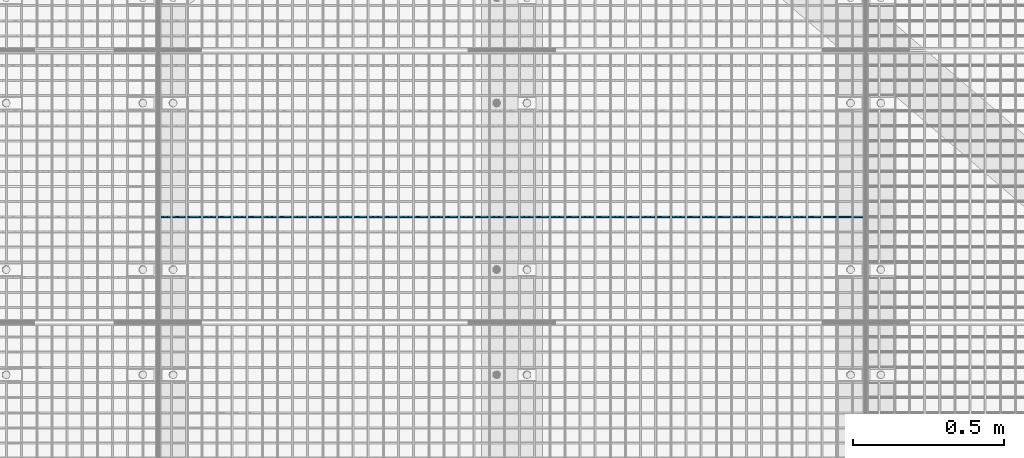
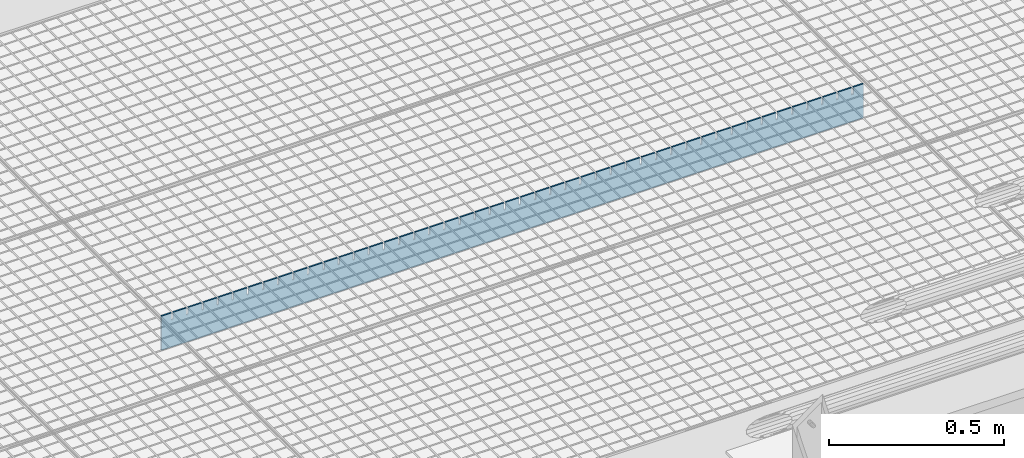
# One storey, part 186 of 1530: 1 beam.
"""IFC2X3 building model written with IfcOpenShell, lengths in millimetres."""

from ifc_helpers import new_model, si_unit, frame, origin_with_axes, place, context, subcontext, project, spatial, faceted_brep, material, type_object, element, save


model = new_model("IFC2X3")

# Units and contexts
model_context = context("Model", 3, precision=1e-05, world=origin_with_axes())
body_context = subcontext(model_context, "Body", "Model", "MODEL_VIEW")
ifc_project = project(units=[si_unit("LENGTHUNIT", "METRE", prefix="MILLI"), si_unit("AREAUNIT", "SQUARE_METRE"), si_unit("VOLUMEUNIT", "CUBIC_METRE"), si_unit("MASSUNIT", "GRAM", prefix="KILO"), si_unit("TIMEUNIT", "SECOND"), si_unit("PLANEANGLEUNIT", "RADIAN"), si_unit("SOLIDANGLEUNIT", "STERADIAN"), si_unit("THERMODYNAMICTEMPERATUREUNIT", "DEGREE_CELSIUS"), si_unit("LUMINOUSINTENSITYUNIT", "LUMEN")], contexts=[model_context])

# Site, building, storey
site_placement = place(None, origin_with_axes())
site = spatial("IfcSite", under=ifc_project, at=site_placement, Name="Brattvåg", CompositionType="ELEMENT")
building_placement = place(site_placement, origin_with_axes())
building = spatial("IfcBuilding", under=site, at=building_placement, Name="Undefined", CompositionType="ELEMENT")
storey_placement = place(building_placement, origin_with_axes())
storey = spatial("IfcBuildingStorey", under=building, at=storey_placement, Name="Undefined", CompositionType="ELEMENT", Elevation=0.0)

# Beam
ifc_material = material(Name="STEEL/S355J2")
beam_type = type_object("IfcBeamType", Name="120*5", PredefinedType="NOTDEFINED")
beam_placement = place(storey_placement, frame((5234.01317977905, 1399.99601745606, -59.9998626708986), z_axis=(0.0, 0.0, 1.0), x_axis=(-1.0, 1.99999855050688e-09, 0.0)))
element("IfcBeam", 1, at=beam_placement, inside=storey, type_object=beam_type, material=ifc_material, Name="GRATING", context=body_context, shape_type="Brep", body=[
    faceted_brep([(83.5790367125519, -2.50000000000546, 60.0000722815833), (83.5790367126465, -2.50000000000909, 35.0001373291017), (83.5790367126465, 2.50022888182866, 35.0001373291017), (83.5790367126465, 2.5, 60.0), (88.5790367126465, -2.50000000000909, 35.0001373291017), (88.5790367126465, 2.50022888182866, 35.0001373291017), (88.5790367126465, -2.50000000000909, 60.0001373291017), (88.5790367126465, 2.5, 60.0), (38.6284370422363, -2.50000000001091, 60.0001373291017), (38.6284370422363, 2.5, 60.0), (38.6284370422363, 2.49999999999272, 35.0001373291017), (38.6284370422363, -2.50000000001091, 35.0001373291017), (33.6284370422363, 2.49999999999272, 35.0001373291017), (33.6284370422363, -2.50000000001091, 35.0001373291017), (33.6284370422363, -2.5, 60.0), (33.6284370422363, 2.5, 60.0), (0.0, 2.5, 60.0), (0.0, -2.5, 60.0), (0.0, -2.5, -60.0), (0.0, 2.5, -60.0), (2319.99865722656, 2.5, -60.0), (2319.99865722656, -2.5, -60.0), (2319.99865722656, -2.5, 60.0), (2319.99865722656, 2.5, 60.0), (2286.37871932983, 2.5, 60.0), (2286.37871932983, -2.50000000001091, 60.0001373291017), (2286.37871932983, 2.49999999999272, 35.0001373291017), (2286.37871932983, -2.50000000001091, 35.0001373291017), (2281.37871932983, 2.49999999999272, 35.0001373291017), (2281.37871932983, -2.50000000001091, 35.0001373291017), (2281.37871932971, -2.50000000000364, 60.0000634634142), (2281.37871932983, 2.5, 60.0), (2236.42859649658, 2.5, 60.0), (2236.42859649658, -2.50000000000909, 60.0001373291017), (2236.42859649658, 2.50022888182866, 35.0001373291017), (2236.42859649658, -2.50000000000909, 35.0001373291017), (2231.42859649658, 2.50022888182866, 35.0001373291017), (2231.42859649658, -2.50000000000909, 35.0001373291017), (2231.42859649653, -2.50000000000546, 60.0000910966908), (2231.42859649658, 2.5, 60.0), (2186.47847366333, 2.5, 60.0), (2186.47847366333, -2.50000000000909, 60.0001373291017), (2186.47847366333, 2.50022888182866, 35.0001373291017), (2186.47847366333, -2.50000000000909, 35.0001373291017), (2181.47847366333, 2.50022888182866, 35.0001373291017), (2181.47847366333, -2.50000000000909, 35.0001373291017), (2181.47847366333, -2.5, 60.0), (2181.47847366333, 2.5, 60.0), (2136.52882766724, 2.5, 60.0), (2136.52882766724, -2.50000000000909, 60.0001373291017), (2136.52882766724, 2.50022888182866, 35.0001373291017), (2136.52882766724, -2.50000000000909, 35.0001373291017), (2131.52882766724, 2.50022888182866, 35.0001373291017), (2131.52882766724, -2.50000000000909, 35.0001373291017), (2131.52882766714, -2.50000000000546, 60.0000722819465), (2131.52882766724, 2.5, 60.0), (2086.57870483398, 2.5, 60.0), (2086.57870483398, -2.50000000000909, 60.0001373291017), (2086.57870483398, 2.50022888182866, 35.0001373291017), (2086.57870483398, -2.50000000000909, 35.0001373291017), (2081.57870483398, 2.50022888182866, 35.0001373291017), (2081.57870483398, -2.50000000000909, 35.0001373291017), (2081.57870483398, -2.5, 60.0), (2081.57870483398, 2.5, 60.0), (2036.62858200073, 2.5, 60.0), (2036.62858200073, -2.50000000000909, 60.0001373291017), (2036.62858200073, 2.50022888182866, 35.0001373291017), (2036.62858200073, -2.50000000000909, 35.0001373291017), (2031.62858200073, 2.50022888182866, 35.0001373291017), (2031.62858200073, -2.50000000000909, 35.0001373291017), (2031.62858200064, -2.50000000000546, 60.0000722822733), (2031.62858200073, 2.5, 60.0), (1986.67845916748, 2.5, 60.0), (1986.67845916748, -2.50000000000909, 60.0001373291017), (1986.67845916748, 2.50022888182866, 35.0001373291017), (1986.67845916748, -2.50000000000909, 35.0001373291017), (1981.67845916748, 2.50022888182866, 35.0001373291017), (1981.67845916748, -2.50000000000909, 35.0001373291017), (1981.67845916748, -2.5, 60.0), (1981.67845916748, 2.5, 60.0), (1936.72881317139, 2.5, 60.0), (1936.72881317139, -2.50000000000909, 60.0001373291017), (1936.72881317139, 2.50022888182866, 35.0001373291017), (1936.72881317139, -2.50000000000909, 35.0001373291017), (1931.72881317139, 2.50022888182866, 35.0001373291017), (1931.72881317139, -2.50000000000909, 35.0001373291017), (1931.72881317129, -2.50000000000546, 60.0000722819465), (1931.72881317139, 2.5, 60.0), (1886.77869033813, 2.5, 60.0), (1886.77869033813, -2.50000000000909, 60.0001373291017), (1886.77869033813, 2.50022888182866, 35.0001373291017), (1886.77869033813, -2.50000000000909, 35.0001373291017), (1881.77869033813, 2.50022888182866, 35.0001373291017), (1881.77869033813, -2.50000000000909, 35.0001373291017), (1881.77869033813, -2.5, 60.0), (1881.77869033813, 2.5, 60.0), (1836.82856750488, 2.5, 60.0), (1836.82856750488, -2.50000000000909, 60.0001373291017), (1836.82856750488, 2.50022888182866, 35.0001373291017), (1836.82856750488, -2.50000000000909, 35.0001373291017), (1831.82856750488, 2.50022888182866, 35.0001373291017), (1831.82856750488, -2.50000000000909, 35.0001373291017), (1831.82856750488, -2.5, 60.0), (1831.82856750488, 2.5, 60.0), (1786.87892150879, 2.5, 60.0), (1786.87892150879, -2.50000000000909, 60.0001373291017), (1786.87892150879, 2.50022888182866, 35.0001373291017), (1786.87892150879, -2.50000000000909, 35.0001373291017), (1781.87892150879, 2.50022888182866, 35.0001373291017), (1781.87892150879, -2.50000000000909, 35.0001373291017), (1781.87892150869, -2.50000000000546, 60.0000722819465), (1781.87892150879, 2.5, 60.0), (1736.92879867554, 2.5, 60.0), (1736.92879867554, -2.50000000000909, 60.0001373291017), (1736.92879867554, 2.50022888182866, 35.0001373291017), (1736.92879867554, -2.50000000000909, 35.0001373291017), (1731.92879867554, 2.50022888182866, 35.0001373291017), (1731.92879867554, -2.50000000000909, 35.0001373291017), (1731.92879867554, -2.5, 60.0), (1731.92879867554, 2.5, 60.0), (1686.97867584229, 2.5, 60.0), (1686.97867584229, -2.50000000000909, 60.0001373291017), (1686.97867584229, 2.50022888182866, 35.0001373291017), (1686.97867584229, -2.50000000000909, 35.0001373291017), (1681.97867584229, 2.50022888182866, 35.0001373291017), (1681.97867584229, -2.50000000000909, 35.0001373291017), (1681.97867584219, -2.50000000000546, 60.0000722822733), (1681.97867584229, 2.5, 60.0), (1637.02855300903, 2.5, 60.0), (1637.02855300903, -2.50000000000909, 60.0001373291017), (1637.02855300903, 2.50022888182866, 35.0001373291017), (1637.02855300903, -2.50000000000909, 35.0001373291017), (1632.02855300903, 2.50022888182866, 35.0001373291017), (1632.02855300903, -2.50000000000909, 35.0001373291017), (1632.02855300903, -2.5, 60.0), (1632.02855300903, 2.5, 60.0), (1587.07890701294, 2.5, 60.0), (1587.07890701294, -2.50000000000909, 60.0001373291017), (1587.07890701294, 2.50022888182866, 35.0001373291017), (1587.07890701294, -2.50000000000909, 35.0001373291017), (1582.07890701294, 2.50022888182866, 35.0001373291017), (1582.07890701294, -2.50000000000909, 35.0001373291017), (1582.07890701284, -2.50000000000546, 60.0000722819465), (1582.07890701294, 2.5, 60.0), (1537.12878417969, 2.5, 60.0), (1537.12878417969, -2.50000000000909, 60.0001373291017), (1537.12878417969, 2.50022888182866, 35.0001373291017), (1537.12878417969, -2.50000000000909, 35.0001373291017), (1532.12878417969, 2.50022888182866, 35.0001373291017), (1532.12878417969, -2.50000000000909, 35.0001373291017), (1532.12878417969, -2.5, 60.0), (1532.12878417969, 2.5, 60.0), (1487.17866134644, 2.5, 60.0), (1487.17866134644, -2.50000000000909, 60.0001373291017), (1487.17866134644, 2.50022888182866, 35.0001373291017), (1487.17866134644, -2.50000000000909, 35.0001373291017), (1482.17866134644, 2.50022888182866, 35.0001373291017), (1482.17866134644, -2.50000000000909, 35.0001373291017), (1482.17866134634, -2.50000000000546, 60.0000722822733), (1482.17866134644, 2.5, 60.0), (1437.22853851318, 2.5, 60.0), (1437.22853851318, -2.50000000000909, 60.0001373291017), (1437.22853851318, 2.50022888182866, 35.0001373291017), (1437.22853851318, -2.50000000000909, 35.0001373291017), (1432.22853851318, 2.50022888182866, 35.0001373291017), (1432.22853851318, -2.50000000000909, 35.0001373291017), (1432.22853851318, -2.5, 60.0), (1432.22853851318, 2.5, 60.0), (1387.27889251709, 2.5, 60.0), (1387.27889251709, -2.50000000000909, 60.0001373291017), (1387.27889251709, 2.50022888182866, 35.0001373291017), (1387.27889251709, -2.50000000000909, 35.0001373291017), (1382.27889251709, 2.50022888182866, 35.0001373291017), (1382.27889251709, -2.50000000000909, 35.0001373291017), (1382.278892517, -2.50000000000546, 60.0000722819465), (1382.27889251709, 2.5, 60.0), (1337.32876968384, 2.5, 60.0), (1337.32876968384, -2.50000000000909, 60.0001373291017), (1337.32876968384, 2.50022888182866, 35.0001373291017), (1337.32876968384, -2.50000000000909, 35.0001373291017), (1332.32876968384, 2.50022888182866, 35.0001373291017), (1332.32876968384, -2.50000000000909, 35.0001373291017), (1332.32876968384, -2.5, 60.0), (1332.32876968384, 2.5, 60.0), (1287.37864685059, 2.5, 60.0), (1287.37864685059, -2.50000000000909, 60.0001373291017), (1287.37864685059, 2.50022888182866, 35.0001373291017), (1287.37864685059, -2.50000000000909, 35.0001373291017), (1282.37864685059, 2.50022888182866, 35.0001373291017), (1282.37864685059, -2.50000000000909, 35.0001373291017), (1282.37864685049, -2.50000000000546, 60.0000722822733), (1282.37864685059, 2.5, 60.0), (1237.42852401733, 2.5, 60.0), (1237.42852401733, -2.50000000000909, 60.0001373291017), (1237.42852401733, 2.50022888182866, 35.0001373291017), (1237.42852401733, -2.50000000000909, 35.0001373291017), (1232.42852401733, 2.50022888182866, 35.0001373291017), (1232.42852401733, -2.50000000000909, 35.0001373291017), (1232.42852401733, -2.5, 60.0), (1232.42852401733, 2.5, 60.0), (1187.47887802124, 2.5, 60.0), (1187.47887802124, -2.50000000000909, 60.0001373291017), (1187.47887802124, 2.50022888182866, 35.0001373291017), (1187.47887802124, -2.50000000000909, 35.0001373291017), (1182.47887802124, 2.50022888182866, 35.0001373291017), (1182.47887802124, -2.50000000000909, 35.0001373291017), (1182.47887802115, -2.50000000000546, 60.0000722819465), (1182.47887802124, 2.5, 60.0), (1137.52875518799, 2.5, 60.0), (1137.52875518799, -2.50000000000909, 60.0001373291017), (1137.52875518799, 2.50022888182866, 35.0001373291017), (1137.52875518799, -2.50000000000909, 35.0001373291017), (1132.52875518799, 2.50022888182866, 35.0001373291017), (1132.52875518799, -2.50000000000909, 35.0001373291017), (1132.52875518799, -2.5, 60.0), (1132.52875518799, 2.5, 60.0), (1087.57863235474, 2.5, 60.0), (1087.57863235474, -2.50000000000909, 60.0001373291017), (1087.57863235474, 2.50022888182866, 35.0001373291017), (1087.57863235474, -2.50000000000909, 35.0001373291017), (1082.57863235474, 2.50022888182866, 35.0001373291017), (1082.57863235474, -2.50000000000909, 35.0001373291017), (1082.57863235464, -2.50000000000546, 60.0000722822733), (1082.57863235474, 2.5, 60.0), (1037.62850952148, 2.5, 60.0), (1037.62850952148, -2.50000000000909, 60.0001373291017), (1037.62850952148, 2.50022888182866, 35.0001373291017), (1037.62850952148, -2.50000000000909, 35.0001373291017), (1032.62850952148, 2.50022888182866, 35.0001373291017), (1032.62850952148, -2.50000000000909, 35.0001373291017), (1032.62850952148, -2.5, 60.0), (1032.62850952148, 2.5, 60.0), (987.678863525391, 2.5, 60.0), (987.678863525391, -2.50000000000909, 60.0001373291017), (987.678863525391, 2.50022888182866, 35.0001373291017), (987.678863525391, -2.50000000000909, 35.0001373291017), (982.678863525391, 2.50022888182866, 35.0001373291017), (982.678863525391, -2.50000000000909, 35.0001373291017), (982.678863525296, -2.50000000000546, 60.0000722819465), (982.678863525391, 2.5, 60.0), (937.728740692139, 2.5, 60.0), (937.728740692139, -2.50000000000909, 60.0001373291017), (937.728740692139, 2.50022888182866, 35.0001373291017), (937.728740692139, -2.50000000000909, 35.0001373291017), (932.728740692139, 2.50022888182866, 35.0001373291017), (932.728740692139, -2.50000000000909, 35.0001373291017), (932.728740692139, -2.5, 60.0), (932.728740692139, 2.5, 60.0), (887.778617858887, 2.5, 60.0), (887.778617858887, -2.50000000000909, 60.0001373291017), (887.778617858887, 2.50022888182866, 35.0001373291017), (887.778617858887, -2.50000000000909, 35.0001373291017), (882.778617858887, 2.50022888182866, 35.0001373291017), (882.778617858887, -2.50000000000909, 35.0001373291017), (882.778617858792, -2.50000000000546, 60.0000722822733), (882.778617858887, 2.5, 60.0), (837.828495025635, 2.5, 60.0), (837.828495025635, -2.50000000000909, 60.0001373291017), (837.828495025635, 2.50022888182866, 35.0001373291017), (837.828495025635, -2.50000000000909, 35.0001373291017), (832.828495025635, 2.50022888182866, 35.0001373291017), (832.828495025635, -2.50000000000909, 35.0001373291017), (832.828495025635, -2.5, 60.0), (832.828495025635, 2.5, 60.0), (787.878849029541, 2.5, 60.0), (787.878849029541, -2.50000000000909, 60.0001373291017), (787.878849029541, 2.50022888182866, 35.0001373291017), (787.878849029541, -2.50000000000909, 35.0001373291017), (782.878849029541, 2.50022888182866, 35.0001373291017), (782.878849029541, -2.50000000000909, 35.0001373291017), (782.878849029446, -2.50000000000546, 60.0000722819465), (782.878849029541, 2.5, 60.0), (737.928726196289, 2.5, 60.0), (737.928726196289, -2.50000000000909, 60.0001373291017), (737.928726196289, 2.50022888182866, 35.0001373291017), (737.928726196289, -2.50000000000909, 35.0001373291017), (732.928726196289, 2.50022888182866, 35.0001373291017), (732.928726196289, -2.50000000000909, 35.0001373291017), (732.928726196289, -2.5, 60.0), (732.928726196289, 2.5, 60.0), (687.978603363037, 2.5, 60.0), (687.978603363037, -2.50000000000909, 60.0001373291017), (687.978603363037, 2.50022888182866, 35.0001373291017), (687.978603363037, -2.50000000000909, 35.0001373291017), (682.978603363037, 2.50022888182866, 35.0001373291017), (682.978603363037, -2.50000000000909, 35.0001373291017), (682.978603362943, -2.50000000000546, 60.0000722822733), (682.978603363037, 2.5, 60.0), (638.028480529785, 2.5, 60.0), (638.028480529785, -2.50000000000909, 60.0001373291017), (638.028480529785, 2.50022888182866, 35.0001373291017), (638.028480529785, -2.50000000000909, 35.0001373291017), (633.028480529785, 2.50022888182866, 35.0001373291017), (633.028480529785, -2.50000000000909, 35.0001373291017), (633.028480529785, -2.5, 60.0), (633.028480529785, 2.5, 60.0), (588.078834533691, 2.5, 60.0), (588.078834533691, -2.50000000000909, 60.0001373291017), (588.078834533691, 2.50022888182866, 35.0001373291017), (588.078834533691, -2.50000000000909, 35.0001373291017), (583.078834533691, 2.50022888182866, 35.0001373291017), (583.078834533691, -2.50000000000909, 35.0001373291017), (583.078834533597, -2.50000000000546, 60.0000722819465), (583.078834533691, 2.5, 60.0), (538.128711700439, 2.5, 60.0), (538.128711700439, -2.50000000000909, 60.0001373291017), (538.128711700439, 2.50022888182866, 35.0001373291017), (538.128711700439, -2.50000000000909, 35.0001373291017), (533.128711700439, 2.50022888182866, 35.0001373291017), (533.128711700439, -2.50000000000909, 35.0001373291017), (533.128711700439, -2.5, 60.0), (533.128711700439, 2.5, 60.0), (488.178588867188, 2.5, 60.0), (488.178588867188, -2.50000000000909, 60.0001373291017), (488.178588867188, 2.50022888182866, 35.0001373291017), (488.178588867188, -2.50000000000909, 35.0001373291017), (483.178588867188, 2.50022888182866, 35.0001373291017), (483.178588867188, -2.50000000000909, 35.0001373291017), (483.178588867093, -2.50000000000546, 60.0000722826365), (483.178588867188, 2.5, 60.0), (438.228942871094, 2.5, 60.0), (438.228942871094, -2.50000000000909, 60.0001373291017), (438.228942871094, 2.50022888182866, 35.0001373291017), (438.228942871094, -2.50000000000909, 35.0001373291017), (433.228942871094, 2.50022888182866, 35.0001373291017), (433.228942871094, -2.50000000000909, 35.0001373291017), (433.228942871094, -2.5, 60.0), (433.228942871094, 2.5, 60.0), (388.278820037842, 2.5, 60.0), (388.278820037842, -2.50000000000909, 60.0001373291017), (388.278820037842, 2.50022888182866, 35.0001373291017), (388.278820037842, -2.50000000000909, 35.0001373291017), (383.278820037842, 2.50022888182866, 35.0001373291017), (383.278820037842, -2.50000000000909, 35.0001373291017), (383.278820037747, -2.50000000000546, 60.0000722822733), (383.278820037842, 2.5, 60.0), (338.32869720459, 2.5, 60.0), (338.32869720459, -2.50000000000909, 60.0001373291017), (338.32869720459, 2.50022888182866, 35.0001373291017), (338.32869720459, -2.50000000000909, 35.0001373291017), (333.32869720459, 2.50022888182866, 35.0001373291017), (333.32869720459, -2.50000000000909, 35.0001373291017), (333.32869720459, -2.5, 60.0), (333.32869720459, 2.5, 60.0), (288.378574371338, 2.5, 60.0), (288.378574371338, -2.50000000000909, 60.0001373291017), (288.378574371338, 2.50022888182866, 35.0001373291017), (288.378574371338, -2.50000000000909, 35.0001373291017), (283.378574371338, 2.50022888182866, 35.0001373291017), (283.378574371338, -2.50000000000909, 35.0001373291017), (283.378574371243, -2.50000000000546, 60.0000722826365), (283.378574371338, 2.5, 60.0), (238.428928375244, 2.5, 60.0), (238.428928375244, -2.50000000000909, 60.0001373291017), (238.428928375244, 2.50022888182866, 35.0001373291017), (238.428928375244, -2.50000000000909, 35.0001373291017), (233.428928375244, 2.50022888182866, 35.0001373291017), (233.428928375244, -2.50000000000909, 35.0001373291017), (233.428928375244, -2.5, 60.0), (233.428928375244, 2.5, 60.0), (188.478328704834, 2.5, 60.0), (188.478328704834, -2.50000000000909, 60.0001373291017), (188.478328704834, 2.50022888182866, 35.0001373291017), (188.478328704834, -2.50000000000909, 35.0001373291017), (183.478328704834, 2.50022888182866, 35.0001373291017), (183.478328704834, -2.50000000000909, 35.0001373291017), (183.478328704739, -2.50000000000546, 60.0000722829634), (183.478328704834, 2.5, 60.0), (138.52868270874, 2.5, 60.0), (138.52868270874, -2.50000000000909, 60.0001373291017), (138.52868270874, 2.50022888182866, 35.0001373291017), (138.52868270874, -2.50000000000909, 35.0001373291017), (133.52868270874, 2.50022888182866, 35.0001373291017), (133.52868270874, -2.50000000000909, 35.0001373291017), (133.52868270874, -2.5, 60.0), (133.52868270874, 2.5, 60.0)], [[[0, 1, 2, 3]], [[4, 5, 2, 1]], [[6, 7, 5, 4]], [[8, 9, 10, 11]], [[11, 10, 12, 13]], [[14, 13, 12, 15]], [[16, 17, 14, 15]], [[18, 17, 16, 19]], [[18, 19, 20, 21]], [[22, 21, 20, 23]], [[22, 23, 24, 25]], [[25, 24, 26, 27]], [[27, 26, 28, 29]], [[30, 29, 28, 31]], [[32, 33, 30, 31]], [[33, 32, 34, 35]], [[35, 34, 36, 37]], [[38, 37, 36, 39]], [[40, 41, 38, 39]], [[41, 40, 42, 43]], [[43, 42, 44, 45]], [[46, 45, 44, 47]], [[46, 47, 48, 49]], [[49, 48, 50, 51]], [[51, 50, 52, 53]], [[54, 53, 52, 55]], [[56, 57, 54, 55]], [[57, 56, 58, 59]], [[59, 58, 60, 61]], [[62, 61, 60, 63]], [[62, 63, 64, 65]], [[65, 64, 66, 67]], [[67, 66, 68, 69]], [[70, 69, 68, 71]], [[72, 73, 70, 71]], [[73, 72, 74, 75]], [[75, 74, 76, 77]], [[78, 77, 76, 79]], [[78, 79, 80, 81]], [[81, 80, 82, 83]], [[83, 82, 84, 85]], [[86, 85, 84, 87]], [[88, 89, 86, 87]], [[89, 88, 90, 91]], [[91, 90, 92, 93]], [[94, 93, 92, 95]], [[94, 95, 96, 97]], [[97, 96, 98, 99]], [[99, 98, 100, 101]], [[102, 101, 100, 103]], [[102, 103, 104, 105]], [[105, 104, 106, 107]], [[107, 106, 108, 109]], [[110, 109, 108, 111]], [[112, 113, 110, 111]], [[113, 112, 114, 115]], [[115, 114, 116, 117]], [[118, 117, 116, 119]], [[118, 119, 120, 121]], [[121, 120, 122, 123]], [[123, 122, 124, 125]], [[126, 125, 124, 127]], [[128, 129, 126, 127]], [[129, 128, 130, 131]], [[131, 130, 132, 133]], [[134, 133, 132, 135]], [[134, 135, 136, 137]], [[137, 136, 138, 139]], [[139, 138, 140, 141]], [[142, 141, 140, 143]], [[144, 145, 142, 143]], [[145, 144, 146, 147]], [[147, 146, 148, 149]], [[150, 149, 148, 151]], [[150, 151, 152, 153]], [[153, 152, 154, 155]], [[155, 154, 156, 157]], [[158, 157, 156, 159]], [[160, 161, 158, 159]], [[161, 160, 162, 163]], [[163, 162, 164, 165]], [[166, 165, 164, 167]], [[166, 167, 168, 169]], [[169, 168, 170, 171]], [[171, 170, 172, 173]], [[174, 173, 172, 175]], [[176, 177, 174, 175]], [[177, 176, 178, 179]], [[179, 178, 180, 181]], [[182, 181, 180, 183]], [[182, 183, 184, 185]], [[185, 184, 186, 187]], [[187, 186, 188, 189]], [[190, 189, 188, 191]], [[192, 193, 190, 191]], [[193, 192, 194, 195]], [[195, 194, 196, 197]], [[198, 197, 196, 199]], [[198, 199, 200, 201]], [[201, 200, 202, 203]], [[203, 202, 204, 205]], [[206, 205, 204, 207]], [[208, 209, 206, 207]], [[209, 208, 210, 211]], [[211, 210, 212, 213]], [[214, 213, 212, 215]], [[214, 215, 216, 217]], [[217, 216, 218, 219]], [[219, 218, 220, 221]], [[222, 221, 220, 223]], [[224, 225, 222, 223]], [[225, 224, 226, 227]], [[227, 226, 228, 229]], [[230, 229, 228, 231]], [[230, 231, 232, 233]], [[233, 232, 234, 235]], [[235, 234, 236, 237]], [[238, 237, 236, 239]], [[240, 241, 238, 239]], [[241, 240, 242, 243]], [[243, 242, 244, 245]], [[246, 245, 244, 247]], [[246, 247, 248, 249]], [[249, 248, 250, 251]], [[251, 250, 252, 253]], [[254, 253, 252, 255]], [[256, 257, 254, 255]], [[257, 256, 258, 259]], [[259, 258, 260, 261]], [[262, 261, 260, 263]], [[262, 263, 264, 265]], [[265, 264, 266, 267]], [[267, 266, 268, 269]], [[270, 269, 268, 271]], [[272, 273, 270, 271]], [[273, 272, 274, 275]], [[275, 274, 276, 277]], [[278, 277, 276, 279]], [[278, 279, 280, 281]], [[281, 280, 282, 283]], [[283, 282, 284, 285]], [[286, 285, 284, 287]], [[288, 289, 286, 287]], [[289, 288, 290, 291]], [[291, 290, 292, 293]], [[294, 293, 292, 295]], [[294, 295, 296, 297]], [[297, 296, 298, 299]], [[299, 298, 300, 301]], [[302, 301, 300, 303]], [[304, 305, 302, 303]], [[305, 304, 306, 307]], [[307, 306, 308, 309]], [[310, 309, 308, 311]], [[310, 311, 312, 313]], [[313, 312, 314, 315]], [[315, 314, 316, 317]], [[318, 317, 316, 319]], [[320, 321, 318, 319]], [[321, 320, 322, 323]], [[323, 322, 324, 325]], [[326, 325, 324, 327]], [[326, 327, 328, 329]], [[329, 328, 330, 331]], [[331, 330, 332, 333]], [[334, 333, 332, 335]], [[336, 337, 334, 335]], [[337, 336, 338, 339]], [[339, 338, 340, 341]], [[342, 341, 340, 343]], [[342, 343, 344, 345]], [[345, 344, 346, 347]], [[347, 346, 348, 349]], [[350, 349, 348, 351]], [[352, 353, 350, 351]], [[353, 352, 354, 355]], [[355, 354, 356, 357]], [[358, 357, 356, 359]], [[358, 359, 360, 361]], [[361, 360, 362, 363]], [[363, 362, 364, 365]], [[366, 365, 364, 367]], [[368, 369, 366, 367]], [[369, 368, 370, 371]], [[371, 370, 372, 373]], [[374, 373, 372, 375]], [[1, 0, 8, 11, 13, 14, 17, 18, 21, 22, 25, 27, 29, 30, 33, 35, 37, 38, 41, 43, 45, 46, 49, 51, 53, 54, 57, 59, 61, 62, 65, 67, 69, 70, 73, 75, 77, 78, 81, 83, 85, 86, 89, 91, 93, 94, 97, 99, 101, 102, 105, 107, 109, 110, 113, 115, 117, 118, 121, 123, 125, 126, 129, 131, 133, 134, 137, 139, 141, 142, 145, 147, 149, 150, 153, 155, 157, 158, 161, 163, 165, 166, 169, 171, 173, 174, 177, 179, 181, 182, 185, 187, 189, 190, 193, 195, 197, 198, 201, 203, 205, 206, 209, 211, 213, 214, 217, 219, 221, 222, 225, 227, 229, 230, 233, 235, 237, 238, 241, 243, 245, 246, 249, 251, 253, 254, 257, 259, 261, 262, 265, 267, 269, 270, 273, 275, 277, 278, 281, 283, 285, 286, 289, 291, 293, 294, 297, 299, 301, 302, 305, 307, 309, 310, 313, 315, 317, 318, 321, 323, 325, 326, 329, 331, 333, 334, 337, 339, 341, 342, 345, 347, 349, 350, 353, 355, 357, 358, 361, 363, 365, 366, 369, 371, 373, 374, 6, 4]], [[9, 8, 0, 3]], [[375, 372, 370, 368, 367, 364, 362, 360, 359, 356, 354, 352, 351, 348, 346, 344, 343, 340, 338, 336, 335, 332, 330, 328, 327, 324, 322, 320, 319, 316, 314, 312, 311, 308, 306, 304, 303, 300, 298, 296, 295, 292, 290, 288, 287, 284, 282, 280, 279, 276, 274, 272, 271, 268, 266, 264, 263, 260, 258, 256, 255, 252, 250, 248, 247, 244, 242, 240, 239, 236, 234, 232, 231, 228, 226, 224, 223, 220, 218, 216, 215, 212, 210, 208, 207, 204, 202, 200, 199, 196, 194, 192, 191, 188, 186, 184, 183, 180, 178, 176, 175, 172, 170, 168, 167, 164, 162, 160, 159, 156, 154, 152, 151, 148, 146, 144, 143, 140, 138, 136, 135, 132, 130, 128, 127, 124, 122, 120, 119, 116, 114, 112, 111, 108, 106, 104, 103, 100, 98, 96, 95, 92, 90, 88, 87, 84, 82, 80, 79, 76, 74, 72, 71, 68, 66, 64, 63, 60, 58, 56, 55, 52, 50, 48, 47, 44, 42, 40, 39, 36, 34, 32, 31, 28, 26, 24, 23, 20, 19, 16, 15, 12, 10, 9, 3, 2, 5, 7]], [[374, 375, 7, 6]]]),
])

save(model, "model.ifc")
